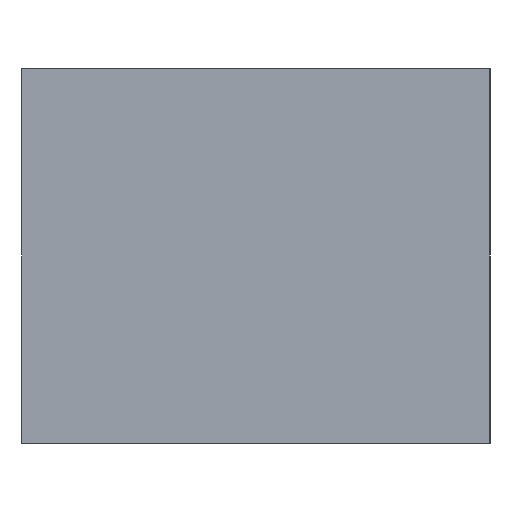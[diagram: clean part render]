
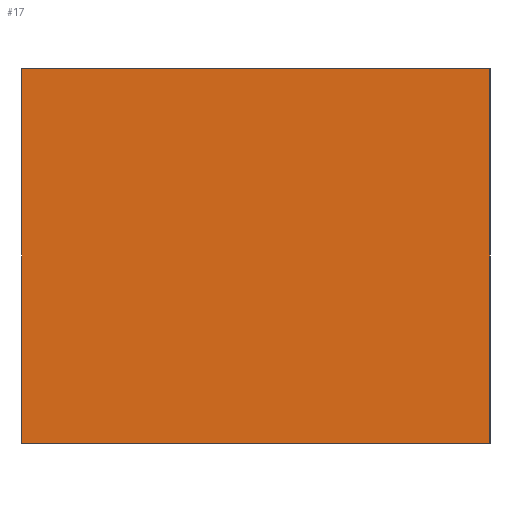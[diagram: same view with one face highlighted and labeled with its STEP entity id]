
A CAD part, left-side view. The second image highlights one B-rep face of the part: STEP entity #17.
In plain terms, the highlighted planar face has unit normal (-1, 0, 0).
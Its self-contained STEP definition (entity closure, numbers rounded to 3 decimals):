
#17 = ADVANCED_FACE('',(#18),#32,.F.);
#18 = FACE_BOUND('',#19,.F.);
#19 = EDGE_LOOP('',(#20,#55,#83,#111));
#20 = ORIENTED_EDGE('',*,*,#21,.F.);
#21 = EDGE_CURVE('',#22,#24,#26,.T.);
#22 = VERTEX_POINT('',#23);
#23 = CARTESIAN_POINT('',(-0.25,-0.175,-0.14));
#24 = VERTEX_POINT('',#25);
#25 = CARTESIAN_POINT('',(-0.25,-0.175,0.14));
#26 = SURFACE_CURVE('',#27,(#31,#43),.PCURVE_S1.);
#27 = LINE('',#28,#29);
#28 = CARTESIAN_POINT('',(-0.25,-0.175,-0.14));
#29 = VECTOR('',#30,1.);
#30 = DIRECTION('',(0.,0.,1.));
#31 = PCURVE('',#32,#37);
#32 = PLANE('',#33);
#33 = AXIS2_PLACEMENT_3D('',#34,#35,#36);
#34 = CARTESIAN_POINT('',(-0.25,-0.175,-0.14));
#35 = DIRECTION('',(1.,0.,0.));
#36 = DIRECTION('',(0.,0.,1.));
#37 = DEFINITIONAL_REPRESENTATION('',(#38),#42);
#38 = LINE('',#39,#40);
#39 = CARTESIAN_POINT('',(0.,0.));
#40 = VECTOR('',#41,1.);
#41 = DIRECTION('',(1.,0.));
#42 = ( GEOMETRIC_REPRESENTATION_CONTEXT(2) 
PARAMETRIC_REPRESENTATION_CONTEXT() REPRESENTATION_CONTEXT('2D SPACE',''
  ) );
#43 = PCURVE('',#44,#49);
#44 = PLANE('',#45);
#45 = AXIS2_PLACEMENT_3D('',#46,#47,#48);
#46 = CARTESIAN_POINT('',(-0.25,-0.175,-0.14));
#47 = DIRECTION('',(0.,1.,0.));
#48 = DIRECTION('',(0.,0.,1.));
#49 = DEFINITIONAL_REPRESENTATION('',(#50),#54);
#50 = LINE('',#51,#52);
#51 = CARTESIAN_POINT('',(0.,0.));
#52 = VECTOR('',#53,1.);
#53 = DIRECTION('',(1.,0.));
#54 = ( GEOMETRIC_REPRESENTATION_CONTEXT(2) 
PARAMETRIC_REPRESENTATION_CONTEXT() REPRESENTATION_CONTEXT('2D SPACE',''
  ) );
#55 = ORIENTED_EDGE('',*,*,#56,.T.);
#56 = EDGE_CURVE('',#22,#57,#59,.T.);
#57 = VERTEX_POINT('',#58);
#58 = CARTESIAN_POINT('',(-0.25,0.175,-0.14));
#59 = SURFACE_CURVE('',#60,(#64,#71),.PCURVE_S1.);
#60 = LINE('',#61,#62);
#61 = CARTESIAN_POINT('',(-0.25,-0.175,-0.14));
#62 = VECTOR('',#63,1.);
#63 = DIRECTION('',(0.,1.,0.));
#64 = PCURVE('',#32,#65);
#65 = DEFINITIONAL_REPRESENTATION('',(#66),#70);
#66 = LINE('',#67,#68);
#67 = CARTESIAN_POINT('',(0.,0.));
#68 = VECTOR('',#69,1.);
#69 = DIRECTION('',(0.,-1.));
#70 = ( GEOMETRIC_REPRESENTATION_CONTEXT(2) 
PARAMETRIC_REPRESENTATION_CONTEXT() REPRESENTATION_CONTEXT('2D SPACE',''
  ) );
#71 = PCURVE('',#72,#77);
#72 = PLANE('',#73);
#73 = AXIS2_PLACEMENT_3D('',#74,#75,#76);
#74 = CARTESIAN_POINT('',(-0.25,-0.175,-0.14));
#75 = DIRECTION('',(0.,0.,1.));
#76 = DIRECTION('',(1.,0.,0.));
#77 = DEFINITIONAL_REPRESENTATION('',(#78),#82);
#78 = LINE('',#79,#80);
#79 = CARTESIAN_POINT('',(0.,0.));
#80 = VECTOR('',#81,1.);
#81 = DIRECTION('',(0.,1.));
#82 = ( GEOMETRIC_REPRESENTATION_CONTEXT(2) 
PARAMETRIC_REPRESENTATION_CONTEXT() REPRESENTATION_CONTEXT('2D SPACE',''
  ) );
#83 = ORIENTED_EDGE('',*,*,#84,.T.);
#84 = EDGE_CURVE('',#57,#85,#87,.T.);
#85 = VERTEX_POINT('',#86);
#86 = CARTESIAN_POINT('',(-0.25,0.175,0.14));
#87 = SURFACE_CURVE('',#88,(#92,#99),.PCURVE_S1.);
#88 = LINE('',#89,#90);
#89 = CARTESIAN_POINT('',(-0.25,0.175,-0.14));
#90 = VECTOR('',#91,1.);
#91 = DIRECTION('',(0.,0.,1.));
#92 = PCURVE('',#32,#93);
#93 = DEFINITIONAL_REPRESENTATION('',(#94),#98);
#94 = LINE('',#95,#96);
#95 = CARTESIAN_POINT('',(0.,-0.35));
#96 = VECTOR('',#97,1.);
#97 = DIRECTION('',(1.,0.));
#98 = ( GEOMETRIC_REPRESENTATION_CONTEXT(2) 
PARAMETRIC_REPRESENTATION_CONTEXT() REPRESENTATION_CONTEXT('2D SPACE',''
  ) );
#99 = PCURVE('',#100,#105);
#100 = PLANE('',#101);
#101 = AXIS2_PLACEMENT_3D('',#102,#103,#104);
#102 = CARTESIAN_POINT('',(-0.25,0.175,-0.14));
#103 = DIRECTION('',(0.,1.,0.));
#104 = DIRECTION('',(0.,0.,1.));
#105 = DEFINITIONAL_REPRESENTATION('',(#106),#110);
#106 = LINE('',#107,#108);
#107 = CARTESIAN_POINT('',(0.,0.));
#108 = VECTOR('',#109,1.);
#109 = DIRECTION('',(1.,0.));
#110 = ( GEOMETRIC_REPRESENTATION_CONTEXT(2) 
PARAMETRIC_REPRESENTATION_CONTEXT() REPRESENTATION_CONTEXT('2D SPACE',''
  ) );
#111 = ORIENTED_EDGE('',*,*,#112,.F.);
#112 = EDGE_CURVE('',#24,#85,#113,.T.);
#113 = SURFACE_CURVE('',#114,(#118,#125),.PCURVE_S1.);
#114 = LINE('',#115,#116);
#115 = CARTESIAN_POINT('',(-0.25,-0.175,0.14));
#116 = VECTOR('',#117,1.);
#117 = DIRECTION('',(0.,1.,0.));
#118 = PCURVE('',#32,#119);
#119 = DEFINITIONAL_REPRESENTATION('',(#120),#124);
#120 = LINE('',#121,#122);
#121 = CARTESIAN_POINT('',(0.28,0.));
#122 = VECTOR('',#123,1.);
#123 = DIRECTION('',(0.,-1.));
#124 = ( GEOMETRIC_REPRESENTATION_CONTEXT(2) 
PARAMETRIC_REPRESENTATION_CONTEXT() REPRESENTATION_CONTEXT('2D SPACE',''
  ) );
#125 = PCURVE('',#126,#131);
#126 = PLANE('',#127);
#127 = AXIS2_PLACEMENT_3D('',#128,#129,#130);
#128 = CARTESIAN_POINT('',(-0.25,-0.175,0.14));
#129 = DIRECTION('',(0.,0.,1.));
#130 = DIRECTION('',(1.,0.,0.));
#131 = DEFINITIONAL_REPRESENTATION('',(#132),#136);
#132 = LINE('',#133,#134);
#133 = CARTESIAN_POINT('',(0.,0.));
#134 = VECTOR('',#135,1.);
#135 = DIRECTION('',(0.,1.));
#136 = ( GEOMETRIC_REPRESENTATION_CONTEXT(2) 
PARAMETRIC_REPRESENTATION_CONTEXT() REPRESENTATION_CONTEXT('2D SPACE',''
  ) );
